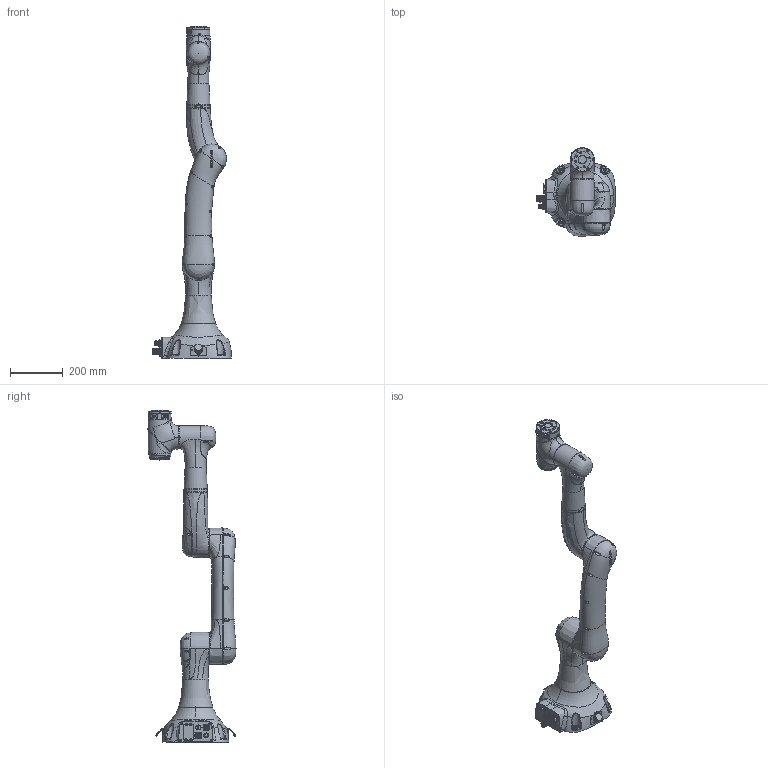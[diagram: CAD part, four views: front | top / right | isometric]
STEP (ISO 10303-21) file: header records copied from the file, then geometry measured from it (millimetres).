
FILE_DESCRIPTION(/* description */ (''),/* implementation_level */ '2;1');
FILE_NAME(/* name */ 'SR4-R800 简化模型(20220819).stp',/* time_stamp */ '2022-08-25T18:45:15+08:00',/* author */ (''),/* organization */ (''),/* preprocessor_version */ 'ST-DEVELOPER v16',/* originating_system */ 'SIEMENS PLM Software NX 10.0',/* authorisation */ '');
FILE_SCHEMA (('CONFIG_CONTROL_DESIGN'));
Products named in the file (8): SR3-shuchu-B; SR3-shouwan-B; SR3-xiaobihou-B; SR4-xiaobiqian-B; SR4-dabi-B; SR4-yao-B; SR4-base-B; SR4-R800 简化模型(20220819)
Assembly tree (7 placements, depth 2):
  SR4-R800 简化模型(20220819)
    SR4-base-B
    SR4-yao-B
    SR4-dabi-B
    SR4-xiaobiqian-B
    SR3-xiaobihou-B
    SR3-shouwan-B
    SR3-shuchu-B
Bounding box: 299.2 x 333.63 x 1258.5 mm (x, y, z)
Volume: 16881793.5 mm3; surface area: 820324.9 mm2
Topology: 7 solids, 19 shells, 5331 faces, 14160 edges, 9067 vertices
Faces by surface type: plane 2870, cylinder 1005, bspline 732, cone 276, torus 177, extrusion 149, sphere 89, revolution 33
Full cylindrical faces by diameter (mm): 0.448 x5, 0.598 x5, 0.627 x1, 0.8 x8, 1 x6, 1.5 x18, 1.7 x3, 2.1 x21, 2.5 x1, 3.9 x6, 4 x1, 4.5 x8, 4.7 x16, 4.8 x1, 5 x5, 5.5 x20, 5.6 x8, 6 x2, 6.3 x6, 6.5 x10, 6.6 x4, 6.7 x2, 8 x1, 8.072 x1, 8.617 x1, 9.4 x5, 11.7 x1, 12 x1, 20 x1, 20.05 x2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
Entity records: 281954 total; most frequent: CARTESIAN_POINT 158095, ORIENTED_EDGE 27066, DIRECTION 22408, EDGE_CURVE 13533, VERTEX_POINT 8888, VECTOR 7549, AXIS2_PLACEMENT_3D 7413, LINE 7400
